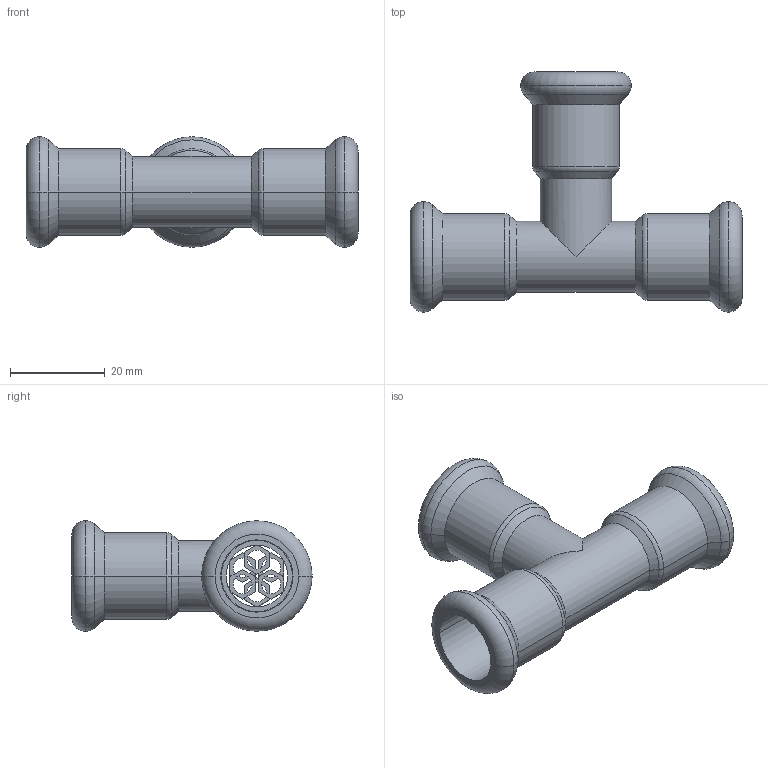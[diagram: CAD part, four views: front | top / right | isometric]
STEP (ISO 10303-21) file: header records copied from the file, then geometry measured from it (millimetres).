
FILE_DESCRIPTION(('OneSpaceDesigner STEP Export'),'2;1');
FILE_NAME('R2714 15x15x15.stp','2010-06-10T 8:35:25',(''),(''),'OneSpace Designer STEP processor for AP214 (Solid Model)','OneSpace Modeling 15.00A 14-Mar-2007 (C) CoCreate Software GmbH','');
FILE_SCHEMA(('AUTOMOTIVE_DESIGN { 1 0 10303 214 1 1 1 1 }'));
Length unit declared in the file: millimetre
Products named in the file (2): R2714_15x15x15
Assembly tree (1 placements, depth 2):
  R2714_15x15x15
    R2714_15x15x15
Bounding box: 70 x 50.65 x 23.3 mm (x, y, z)
Volume: 9265.2 mm3; surface area: 11649.8 mm2
Topology: 1 solids, 1 shells, 137 faces, 336 edges, 212 vertices
Faces by surface type: plane 63, cylinder 44, torus 18, cone 12
Entity records: 3602 total; most frequent: ORIENTED_EDGE 672, CARTESIAN_POINT 582, DIRECTION 552, EDGE_CURVE 336, VERTEX_POINT 212, VECTOR 188, LINE 188, AXIS2_PLACEMENT_3D 182
